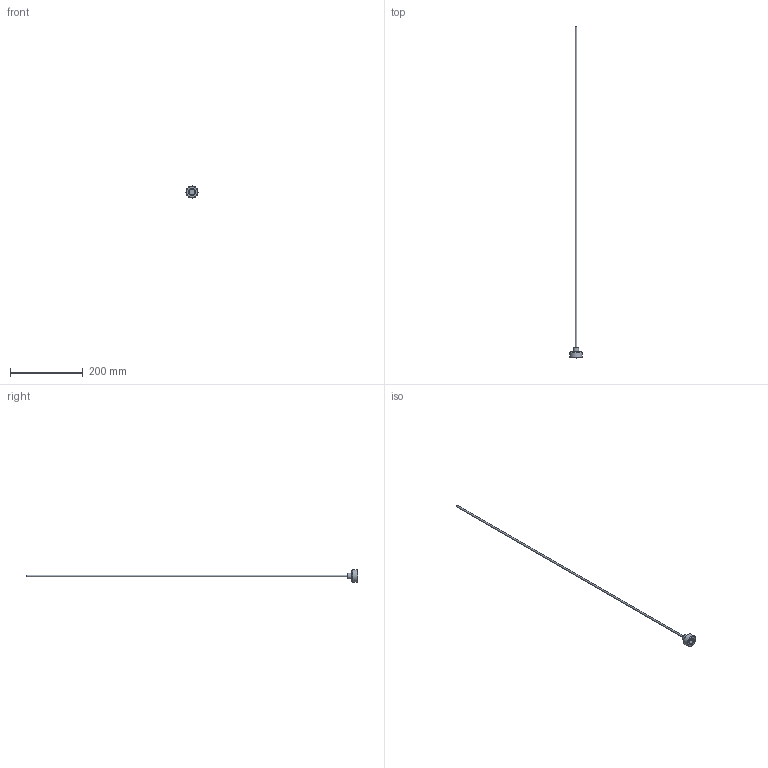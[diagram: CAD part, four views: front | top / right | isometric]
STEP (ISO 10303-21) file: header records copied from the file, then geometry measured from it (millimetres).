
FILE_DESCRIPTION(/* description */ (''),/* implementation_level */ '2;1');
FILE_NAME(/* name */ 'C:/Users/drich/Desktop/DR-1000 v3.step',/* time_stamp */ '2020-01-08T16:11:11-06:00',/* author */ (''),/* organization */ (''),/* preprocessor_version */ 'ST-DEVELOPER v18',/* originating_system */ 'Autodesk Translation Framework v8.12.0.6',/* authorisation */ '');
FILE_SCHEMA (('AUTOMOTIVE_DESIGN { 1 0 10303 214 3 1 1 }'));
Length unit declared in the file: inch
Products named in the file (1): DR-1000
Bounding box: 33.07 x 914.4 x 33.07 mm (x, y, z)
Volume: 29492.9 mm3; surface area: 17749.3 mm2
Topology: 2 solids, 2 shells, 20 faces, 45 edges, 31 vertices
Faces by surface type: plane 12, cylinder 3, cone 3, torus 2
Full cylindrical faces by diameter (mm): 4.75 x1, 15.875 x1, 33.069 x1
Entity records: 609 total; most frequent: CARTESIAN_POINT 109, DIRECTION 102, ORIENTED_EDGE 90, EDGE_CURVE 45, AXIS2_PLACEMENT_3D 42, VERTEX_POINT 31, EDGE_LOOP 22, CIRCLE 21
